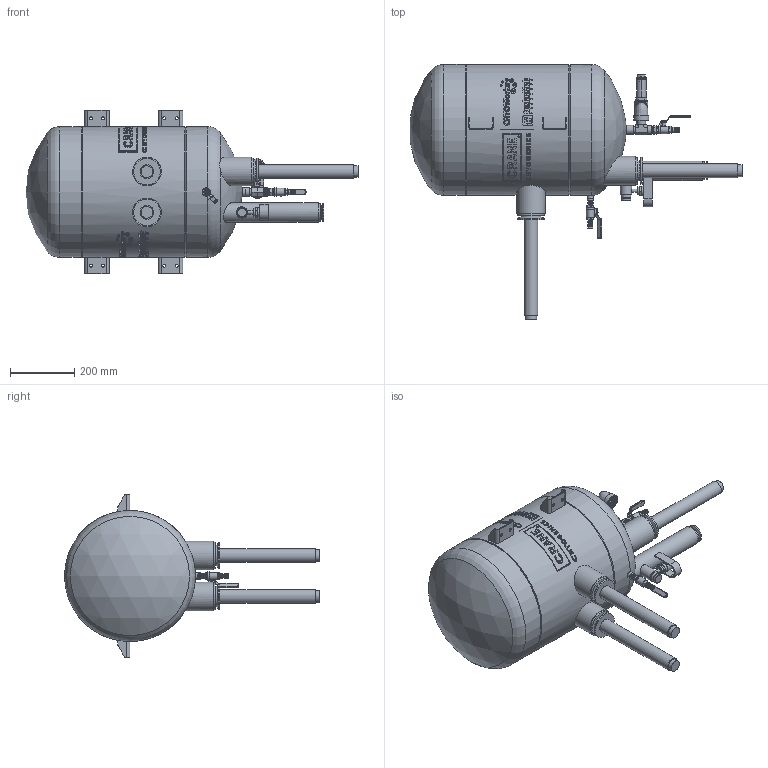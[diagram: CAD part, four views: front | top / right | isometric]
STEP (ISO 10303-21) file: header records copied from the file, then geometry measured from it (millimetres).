
FILE_DESCRIPTION (( 'STEP AP203' ), '1' );
FILE_NAME ('CA01720.step', '2025-12-17T20:02:27', ( '' ), ( '' ), 'SwSTEP 2.0', 'SolidWorks 2023', '' );
FILE_SCHEMA (( 'CONFIG_CONTROL_DESIGN' ));
Length unit declared in the file: inch
Products named in the file (1): CA01720
Bounding box: 1031.51 x 792.16 x 508 mm (x, y, z)
Volume: 80937541 mm3; surface area: 1435743.6 mm2
Topology: 1 solids, 13 shells, 2427 faces, 6141 edges, 3955 vertices
Faces by surface type: plane 1127, cylinder 614, cone 440, bspline 202, torus 30, sphere 14
Full cylindrical faces by diameter (mm): 2.091 x2, 2.291 x2, 2.489 x2, 2.855 x2, 3.223 x2, 4.154 x2, 4.299 x2, 4.75 x2, 4.772 x2, 4.775 x1, 5.085 x2, 5.33 x2, 5.527 x14, 5.613 x2, 6.221 x14, 6.272 x4, 6.35 x7, 6.402 x2, 7.112 x1, 7.722 x2, 7.976 x2, 8.647 x2, 9.188 x2, 9.246 x3, 9.322 x2, 9.525 x8, 9.842 x2, 10.262 x1, 10.683 x2, 11.1 x1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
Entity records: 169243 total; most frequent: CARTESIAN_POINT 117131, ORIENTED_EDGE 11174, DIRECTION 9653, EDGE_CURVE 5587, AXIS2_PLACEMENT_3D 3833, VERTEX_POINT 3782, EDGE_LOOP 3095, FACE_OUTER_BOUND 2611
